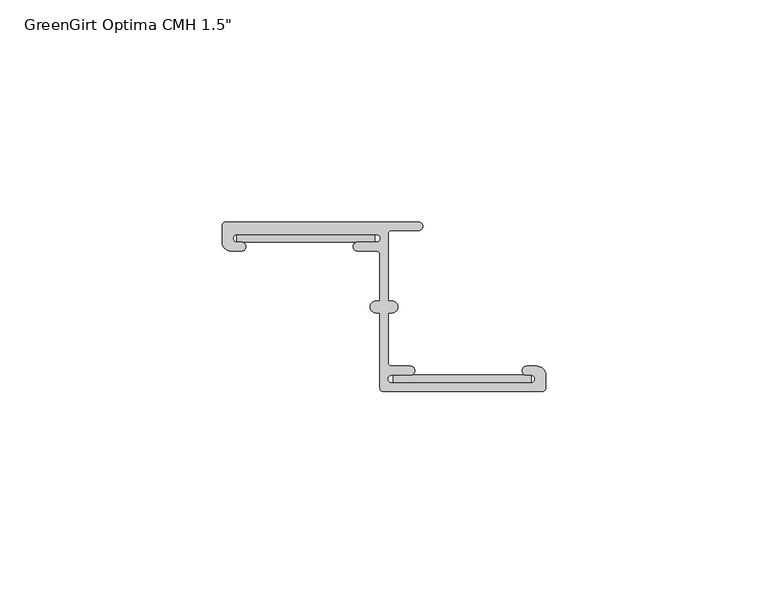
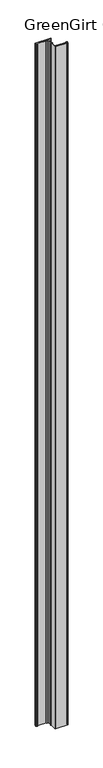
"""IFC4 building model written with IfcOpenShell, lengths in millimetres: fastener geometry."""

from ifc_helpers import new_model, si_unit, frame, origin, origin_with_axes, place, context, project, spatial, polyline, circle_curve, outline, extrude, source, transform, mapped, element, save
from ifc_brep_helpers import plane_surface, cylinder_surface, revolved_surface, advanced_brep


def fastener_4e99c733(model_context):
    return source(origin(), model_context, "Body", "SolidModel", [
        advanced_brep(
        [(54.102, -2.794, 2032.0), (85.471, -2.794, 2032.0), (85.471, -4.5212, 2032.0), (81.28, -4.5212, 2032.0), (81.28, -6.5532, 2032.0), (85.471, -6.5532, 2032.0), (86.233, -7.3152, 2032.0), (86.233, -17.7601563, 2032.0), (85.3845567, -17.7601563, 2032.0), (85.3845567, -20.4288947, 2032.0), (86.233, -20.4288947, 2032.0), (86.233, -37.3379766, 2032.0), (86.995, -38.0999766, 2032.0), (122.8513242, -38.1, 2032.0), (123.571, -37.3379766, 2032.0), (123.571, -34.4677766, 2032.0), (121.539, -32.4357766, 2032.0), (119.253, -32.4357766, 2032.0), (119.253, -34.4677766, 2032.0), (120.269, -34.4677766, 2032.0), (120.269, -36.1949766, 2032.0), (88.9, -36.1949766, 2032.0), (88.9, -34.4677766, 2032.0), (93.091, -34.4677766, 2032.0), (93.091, -32.4357766, 2032.0), (88.9, -32.4357766, 2032.0), (88.138, -31.6737766, 2032.0), (88.138, -20.4279799, 2032.0), (88.9869007, -20.4279799, 2032.0), (88.9869007, -17.7601563, 2032.0), (88.138, -17.7601563, 2032.0), (88.138, -2.667, 2032.0), (88.9, -1.905, 2032.0), (94.996, -1.905, 2032.0), (94.996, 0.0, 2032.0), (51.562, 0.0, 2032.0), (50.8, -0.762, 2032.0), (50.8, -4.5212, 2032.0), (52.832, -6.5532, 2032.0), (55.118, -6.5532, 2032.0), (55.118, -4.5212, 2032.0), (54.102, -4.5212, 2032.0), (54.102, -2.794, 0.0), (54.102, -4.5212, 0.0), (55.118, -4.5212, 0.0), (55.118, -6.5532, 0.0), (52.832, -6.5532, 0.0), (50.8, -4.5212, 0.0), (50.8, -0.762, 0.0), (51.562, 0.0, 0.0), (94.996, 0.0, 0.0), (94.996, -1.905, 0.0), (88.9, -1.905, 0.0), (88.138, -2.667, 0.0), (88.138, -17.7601563, 0.0), (88.9869007, -17.7601563, 0.0), (88.9869007, -20.4279799, 0.0), (88.138, -20.4279799, 0.0), (88.138, -31.6737766, 0.0), (88.9, -32.4357766, 0.0), (93.091, -32.4357766, 0.0), (93.091, -34.4677766, 0.0), (88.9, -34.4677766, 0.0), (88.9, -36.1949766, 0.0), (120.269, -36.1949766, 0.0), (120.269, -34.4677766, 0.0), (119.253, -34.4677766, 0.0), (119.253, -32.4357766, 0.0), (121.539, -32.4357766, 0.0), (123.571, -34.4677766, 0.0), (123.571, -37.3379766, 0.0), (122.809, -38.0999766, 0.0), (86.9676774, -38.1, 0.0), (86.233, -37.3379766, 0.0), (86.233, -20.4288947, 0.0), (85.3845567, -20.4288947, 0.0), (85.3845567, -17.7601563, 0.0), (86.233, -17.7601563, 0.0), (86.233, -7.3152, 0.0), (85.471, -6.5532, 0.0), (81.28, -6.5532, 0.0), (81.28, -4.5212, 0.0), (85.471, -4.5212, 0.0), (85.471, -2.794, 0.0)],
        [
            (0, 1),
            (1, 2, circle_curve(frame((85.471, -3.6576, 2032.0), z_axis=(0.0, 0.0, -1.0), x_axis=(1.0, 0.0, 0.0)), 0.8636)),
            (2, 3),
            (3, 4, circle_curve(frame((81.28, -5.5372, 2032.0), z_axis=(0.0, 0.0, 1.0), x_axis=(1.0, 0.0, 0.0)), 1.016)),
            (4, 5),
            (5, 6, circle_curve(frame((85.471, -7.3152, 2032.0), z_axis=(0.0, 0.0, -1.0), x_axis=(1.0, 0.0, 0.0)), 0.762)),
            (6, 7),
            (7, 8),
            (8, 9, circle_curve(frame((85.3845567, -19.0945255, 2032.0), z_axis=(0.0, 0.0, 1.0), x_axis=(1.0, 0.0, 0.0)), 1.3343692)),
            (9, 10),
            (10, 11),
            (11, 12, circle_curve(frame((86.995, -37.3379766, 2032.0), z_axis=(0.0, 0.0, 1.0), x_axis=(1.0, 0.0, 0.0)), 0.762)),
            (12, 13),
            (13, 14, circle_curve(frame((122.809, -37.3379766, 2032.0), z_axis=(0.0, 0.0, 1.0), x_axis=(1.0, 0.0, 0.0)), 0.762)),
            (14, 15),
            (15, 16, circle_curve(frame((121.539, -34.4677766, 2032.0), z_axis=(0.0, 0.0, 1.0), x_axis=(1.0, 0.0, 0.0)), 2.032)),
            (16, 17),
            (17, 18, circle_curve(frame((119.253, -33.4517766, 2032.0), z_axis=(0.0, 0.0, 1.0), x_axis=(1.0, 0.0, 0.0)), 1.016)),
            (18, 19),
            (19, 20, circle_curve(frame((120.269, -35.3313766, 2032.0), z_axis=(0.0, 0.0, -1.0), x_axis=(1.0, 0.0, 0.0)), 0.8636)),
            (20, 21),
            (21, 22, circle_curve(frame((88.9, -35.3313766, 2032.0), z_axis=(0.0, 0.0, -1.0), x_axis=(1.0, 0.0, 0.0)), 0.8636)),
            (22, 23),
            (23, 24, circle_curve(frame((93.091, -33.4517766, 2032.0), z_axis=(0.0, 0.0, 1.0), x_axis=(1.0, 0.0, 0.0)), 1.016)),
            (24, 25),
            (25, 26, circle_curve(frame((88.9, -31.6737766, 2032.0), z_axis=(0.0, 0.0, -1.0), x_axis=(1.0, 0.0, 0.0)), 0.762)),
            (26, 27),
            (27, 28),
            (28, 29, circle_curve(frame((88.9869007, -19.0940681, 2032.0), z_axis=(0.0, 0.0, 1.0), x_axis=(1.0, 0.0, 0.0)), 1.3339118)),
            (29, 30),
            (30, 31),
            (31, 32, circle_curve(frame((88.9, -2.667, 2032.0), z_axis=(0.0, 0.0, -1.0), x_axis=(1.0, 0.0, 0.0)), 0.762)),
            (32, 33),
            (33, 34, circle_curve(frame((94.996, -0.9525, 2032.0), z_axis=(0.0, 0.0, 1.0), x_axis=(1.0, 0.0, 0.0)), 0.9525)),
            (34, 35),
            (35, 36, circle_curve(frame((51.562, -0.762, 2032.0), z_axis=(0.0, 0.0, 1.0), x_axis=(1.0, 0.0, 0.0)), 0.762)),
            (36, 37),
            (37, 38, circle_curve(frame((52.832, -4.5212, 2032.0), z_axis=(0.0, 0.0, 1.0), x_axis=(1.0, 0.0, 0.0)), 2.032)),
            (38, 39),
            (39, 40, circle_curve(frame((55.118, -5.5372, 2032.0), z_axis=(0.0, 0.0, 1.0), x_axis=(1.0, 0.0, 0.0)), 1.016)),
            (40, 41),
            (41, 0, circle_curve(frame((54.102, -3.6576, 2032.0), z_axis=(0.0, 0.0, -1.0), x_axis=(1.0, 0.0, 0.0)), 0.8636)),
            (42, 43, circle_curve(frame((54.102, -3.6576, 0.0), z_axis=(0.0, 0.0, 1.0), x_axis=(1.0, 0.0, 0.0)), 0.8636)),
            (43, 44),
            (44, 45, circle_curve(frame((55.118, -5.5372, 0.0), z_axis=(0.0, 0.0, -1.0), x_axis=(1.0, 0.0, 0.0)), 1.016)),
            (45, 46),
            (46, 47, circle_curve(frame((52.832, -4.5212, 0.0), z_axis=(0.0, 0.0, -1.0), x_axis=(1.0, 0.0, 0.0)), 2.032)),
            (47, 48),
            (48, 49, circle_curve(frame((51.562, -0.762, 0.0), z_axis=(0.0, 0.0, -1.0), x_axis=(1.0, 0.0, 0.0)), 0.762)),
            (49, 50),
            (50, 51, circle_curve(frame((94.996, -0.9525, 0.0), z_axis=(0.0, 0.0, -1.0), x_axis=(1.0, 0.0, 0.0)), 0.9525)),
            (51, 52),
            (52, 53, circle_curve(frame((88.9, -2.667, 0.0), z_axis=(0.0, 0.0, 1.0), x_axis=(1.0, 0.0, 0.0)), 0.762)),
            (53, 54),
            (54, 55),
            (55, 56, circle_curve(frame((88.9869007, -19.0940681, 0.0), z_axis=(0.0, 0.0, -1.0), x_axis=(1.0, 0.0, 0.0)), 1.3339118)),
            (56, 57),
            (57, 58),
            (58, 59, circle_curve(frame((88.9, -31.6737766, 0.0), z_axis=(0.0, 0.0, 1.0), x_axis=(1.0, 0.0, 0.0)), 0.762)),
            (59, 60),
            (60, 61, circle_curve(frame((93.091, -33.4517766, 0.0), z_axis=(0.0, 0.0, -1.0), x_axis=(1.0, 0.0, 0.0)), 1.016)),
            (61, 62),
            (62, 63, circle_curve(frame((88.9, -35.3313766, 0.0), z_axis=(0.0, 0.0, 1.0), x_axis=(1.0, 0.0, 0.0)), 0.8636)),
            (63, 64),
            (64, 65, circle_curve(frame((120.269, -35.3313766, 0.0), z_axis=(0.0, 0.0, 1.0), x_axis=(1.0, 0.0, 0.0)), 0.8636)),
            (65, 66),
            (66, 67, circle_curve(frame((119.253, -33.4517766, 0.0), z_axis=(0.0, 0.0, -1.0), x_axis=(1.0, 0.0, 0.0)), 1.016)),
            (67, 68),
            (68, 69, circle_curve(frame((121.539, -34.4677766, 0.0), z_axis=(0.0, 0.0, -1.0), x_axis=(1.0, 0.0, 0.0)), 2.032)),
            (69, 70),
            (70, 71, circle_curve(frame((122.809, -37.3379766, 0.0), z_axis=(0.0, 0.0, -1.0), x_axis=(1.0, 0.0, 0.0)), 0.762)),
            (71, 72),
            (72, 73, circle_curve(frame((86.995, -37.3379766, 0.0), z_axis=(0.0, 0.0, -1.0), x_axis=(1.0, 0.0, 0.0)), 0.762)),
            (73, 74),
            (74, 75),
            (75, 76, circle_curve(frame((85.3845567, -19.0945255, 0.0), z_axis=(0.0, 0.0, -1.0), x_axis=(1.0, 0.0, 0.0)), 1.3343692)),
            (76, 77),
            (77, 78),
            (78, 79, circle_curve(frame((85.471, -7.3152, 0.0), z_axis=(0.0, 0.0, 1.0), x_axis=(1.0, 0.0, 0.0)), 0.762)),
            (79, 80),
            (80, 81, circle_curve(frame((81.28, -5.5372, 0.0), z_axis=(0.0, 0.0, -1.0), x_axis=(1.0, 0.0, 0.0)), 1.016)),
            (81, 82),
            (82, 83, circle_curve(frame((85.471, -3.6576, 0.0), z_axis=(0.0, 0.0, 1.0), x_axis=(1.0, 0.0, 0.0)), 0.8636)),
            (83, 42),
            (0, 42),
            (83, 1),
            (82, 2),
            (81, 3),
            (80, 4),
            (79, 5),
            (78, 6),
            (77, 7),
            (76, 8),
            (75, 9),
            (74, 10),
            (73, 11),
            (72, 12),
            (71, 13),
            (70, 14),
            (69, 15),
            (68, 16),
            (67, 17),
            (66, 18),
            (65, 19),
            (64, 20),
            (63, 21),
            (62, 22),
            (61, 23),
            (60, 24),
            (59, 25),
            (58, 26),
            (57, 27),
            (56, 28),
            (55, 29),
            (54, 30),
            (53, 31),
            (52, 32),
            (51, 33),
            (50, 34),
            (49, 35),
            (48, 36),
            (47, 37),
            (46, 38),
            (45, 39),
            (44, 40),
            (43, 41),
        ],
        [
            plane_surface(frame((85.471, -2.794, 2032.0), z_axis=(0.0, 0.0, 1.0), x_axis=(1.0, 0.0, 0.0))),
            plane_surface(frame((85.471, -2.794, 0.0), z_axis=(0.0, 0.0, -1.0), x_axis=(-1.0, 0.0, 0.0))),
            plane_surface(frame((54.102, -2.794, 2032.0), z_axis=(0.0, -1.0, 0.0), x_axis=(0.0, 0.0, -1.0))),
            revolved_surface(polyline([(86.33460000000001, -3.6576, 0.0), (86.33460000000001, -3.6576, 2032.0)]), (85.471, -3.6576, 0.0), (0.0, 0.0, -1.0)),
            plane_surface(frame((85.471, -4.5212, 2032.0), z_axis=(0.0, 1.0, 0.0), x_axis=(0.0, 0.0, -1.0))),
            cylinder_surface(frame((81.28, -5.5372, 0.0), z_axis=(0.0, 0.0, 1.0), x_axis=(1.0, 0.0, 0.0)), 1.016),
            plane_surface(frame((81.28, -6.5532, 2032.0), z_axis=(0.0, -1.0, 0.0), x_axis=(0.0, 0.0, -1.0))),
            revolved_surface(polyline([(86.233, -7.3152, 0.0), (86.233, -7.3152, 2032.0)]), (85.471, -7.3152, 0.0), (0.0, 0.0, -1.0)),
            plane_surface(frame((86.233, -7.3152, 2032.0), z_axis=(-1.0, 0.0, 0.0), x_axis=(0.0, 0.0, -1.0))),
            plane_surface(frame((86.233, -17.7601563, 2032.0), z_axis=(0.0, 1.0, 0.0), x_axis=(0.0, 0.0, -1.0))),
            cylinder_surface(frame((85.3845567, -19.0945255, 0.0), z_axis=(0.0, 0.0, 1.0), x_axis=(1.0, 0.0, 0.0)), 1.3343692),
            plane_surface(frame((85.3845567, -20.4288947, 2032.0), z_axis=(0.0, -1.0, 0.0), x_axis=(0.0, 0.0, -1.0))),
            plane_surface(frame((86.233, -20.4288947, 2032.0), z_axis=(-1.0, 0.0, 0.0), x_axis=(0.0, 0.0, -1.0))),
            cylinder_surface(frame((86.995, -37.3379766, 0.0), z_axis=(0.0, 0.0, 1.0), x_axis=(1.0, 0.0, 0.0)), 0.762),
            plane_surface(frame((86.9676774, -38.1, 2032.0), z_axis=(0.0, -1.0, 0.0), x_axis=(0.0, 0.0, -1.0))),
            cylinder_surface(frame((122.809, -37.3379766, 0.0), z_axis=(0.0, 0.0, 1.0), x_axis=(1.0, 0.0, 0.0)), 0.762),
            plane_surface(frame((123.571, -37.3379766, 2032.0), z_axis=(1.0, 1.3794275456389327e-12, 0.0), x_axis=(0.0, 0.0, -1.0))),
            cylinder_surface(frame((121.539, -34.4677766, 0.0), z_axis=(0.0, 0.0, 1.0), x_axis=(1.0, 0.0, 0.0)), 2.032),
            plane_surface(frame((121.539, -32.4357766, 2032.0), z_axis=(0.0, 1.0, 0.0), x_axis=(0.0, 0.0, -1.0))),
            cylinder_surface(frame((119.253, -33.4517766, 0.0), z_axis=(0.0, 0.0, 1.0), x_axis=(1.0, 0.0, 0.0)), 1.016),
            plane_surface(frame((119.253, -34.4677766, 2032.0), z_axis=(0.0, -1.0, 0.0), x_axis=(0.0, 0.0, -1.0))),
            revolved_surface(polyline([(121.13260000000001, -35.3313766, 0.0), (121.13260000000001, -35.3313766, 2032.0)]), (120.269, -35.3313766, 0.0), (0.0, 0.0, -1.0)),
            plane_surface(frame((120.269, -36.1949766, 2032.0), z_axis=(0.0, 1.0, 0.0), x_axis=(0.0, 0.0, -1.0))),
            revolved_surface(polyline([(89.76360000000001, -35.3313766, 0.0), (89.76360000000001, -35.3313766, 2032.0)]), (88.9, -35.3313766, 0.0), (0.0, 0.0, -1.0)),
            plane_surface(frame((88.9, -34.4677766, 2032.0), z_axis=(0.0, -1.0, 0.0), x_axis=(0.0, 0.0, -1.0))),
            cylinder_surface(frame((93.091, -33.4517766, 0.0), z_axis=(0.0, 0.0, 1.0), x_axis=(1.0, 0.0, 0.0)), 1.016),
            plane_surface(frame((93.091, -32.4357766, 2032.0), z_axis=(0.0, 1.0, 0.0), x_axis=(0.0, 0.0, -1.0))),
            revolved_surface(polyline([(89.662, -31.6737766, 0.0), (89.662, -31.6737766, 2032.0)]), (88.9, -31.6737766, 0.0), (0.0, 0.0, -1.0)),
            plane_surface(frame((88.138, -31.6737766, 2032.0), z_axis=(1.0, 0.0, 0.0), x_axis=(0.0, 0.0, -1.0))),
            plane_surface(frame((88.138, -20.4279799, 2032.0), z_axis=(0.0, -1.0, 0.0), x_axis=(0.0, 0.0, -1.0))),
            cylinder_surface(frame((88.9869007, -19.0940681, 0.0), z_axis=(0.0, 0.0, 1.0), x_axis=(1.0, 0.0, 0.0)), 1.3339118),
            plane_surface(frame((88.9869007, -17.7601563, 2032.0), z_axis=(0.0, 1.0, 0.0), x_axis=(0.0, 0.0, -1.0))),
            plane_surface(frame((88.138, -17.7601563, 2032.0), z_axis=(1.0, 0.0, 0.0), x_axis=(0.0, 0.0, -1.0))),
            revolved_surface(polyline([(89.662, -2.667, 0.0), (89.662, -2.667, 2032.0)]), (88.9, -2.667, 0.0), (0.0, 0.0, -1.0)),
            plane_surface(frame((88.9, -1.905, 2032.0), z_axis=(0.0, -1.0, 0.0), x_axis=(0.0, 0.0, -1.0))),
            cylinder_surface(frame((94.996, -0.9525, 0.0), z_axis=(0.0, 0.0, 1.0), x_axis=(1.0, 0.0, 0.0)), 0.9525),
            plane_surface(frame((94.996, 0.0, 2032.0), z_axis=(0.0, 1.0, 0.0), x_axis=(0.0, 0.0, -1.0))),
            cylinder_surface(frame((51.562, -0.762, 0.0), z_axis=(0.0, 0.0, 1.0), x_axis=(1.0, 0.0, 0.0)), 0.762),
            plane_surface(frame((50.8, -0.762, 2032.0), z_axis=(-1.0, 2.681638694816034e-11, 0.0), x_axis=(0.0, 0.0, -1.0))),
            cylinder_surface(frame((52.832, -4.5212, 0.0), z_axis=(0.0, 0.0, 1.0), x_axis=(1.0, 0.0, 0.0)), 2.032),
            plane_surface(frame((52.832, -6.5532, 2032.0), z_axis=(0.0, -1.0, 0.0), x_axis=(0.0, 0.0, -1.0))),
            cylinder_surface(frame((55.118, -5.5372, 0.0), z_axis=(0.0, 0.0, 1.0), x_axis=(1.0, 0.0, 0.0)), 1.016),
            plane_surface(frame((55.118, -4.5212, 2032.0), z_axis=(0.0, 1.0, 0.0), x_axis=(0.0, 0.0, -1.0))),
            revolved_surface(polyline([(54.965599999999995, -3.6576, 0.0), (54.965599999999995, -3.6576, 2032.0)]), (54.102, -3.6576, 0.0), (0.0, 0.0, -1.0)),
        ],
        [
            (0, [[1, 2, 3, 4, 5, 6, 7, 8, 9, 10, 11, 12, 13, 14, 15, 16, 17, 18, 19, 20, 21, 22, 23, 24, 25, 26, 27, 28, 29, 30, 31, 32, 33, 34, 35, 36, 37, 38, 39, 40, 41, 42]]),
            (1, [[43, 44, 45, 46, 47, 48, 49, 50, 51, 52, 53, 54, 55, 56, 57, 58, 59, 60, 61, 62, 63, 64, 65, 66, 67, 68, 69, 70, 71, 72, 73, 74, 75, 76, 77, 78, 79, 80, 81, 82, 83, 84]]),
            (2, [[-1, 85, -84, 86]]),
            (3, [[-2, -86, -83, 87]]),
            (4, [[-3, -87, -82, 88]]),
            (5, [[-4, -88, -81, 89]]),
            (6, [[-5, -89, -80, 90]]),
            (7, [[-6, -90, -79, 91]]),
            (8, [[-7, -91, -78, 92]]),
            (9, [[-8, -92, -77, 93]]),
            (10, [[-9, -93, -76, 94]]),
            (11, [[-10, -94, -75, 95]]),
            (12, [[-11, -95, -74, 96]]),
            (13, [[-12, -96, -73, 97]]),
            (14, [[-13, -97, -72, 98]]),
            (15, [[-14, -98, -71, 99]]),
            (16, [[-15, -99, -70, 100]]),
            (17, [[-16, -100, -69, 101]]),
            (18, [[-17, -101, -68, 102]]),
            (19, [[-18, -102, -67, 103]]),
            (20, [[-19, -103, -66, 104]]),
            (21, [[-20, -104, -65, 105]]),
            (22, [[-21, -105, -64, 106]]),
            (23, [[-22, -106, -63, 107]]),
            (24, [[-23, -107, -62, 108]]),
            (25, [[-24, -108, -61, 109]]),
            (26, [[-25, -109, -60, 110]]),
            (27, [[-26, -110, -59, 111]]),
            (28, [[-27, -111, -58, 112]]),
            (29, [[-28, -112, -57, 113]]),
            (30, [[-29, -113, -56, 114]]),
            (31, [[-30, -114, -55, 115]]),
            (32, [[-31, -115, -54, 116]]),
            (33, [[-32, -116, -53, 117]]),
            (34, [[-33, -117, -52, 118]]),
            (35, [[-34, -118, -51, 119]]),
            (36, [[-35, -119, -50, 120]]),
            (37, [[-36, -120, -49, 121]]),
            (38, [[-37, -121, -48, 122]]),
            (39, [[-38, -122, -47, 123]]),
            (40, [[-39, -123, -46, 124]]),
            (41, [[-40, -124, -45, 125]]),
            (42, [[-41, -125, -44, 126]]),
            (43, [[-42, -126, -43, -85]]),
        ],
    ),
        extrude(outline(polyline([(85.09, -2.794), (85.09, -4.5212), (54.102, -4.5212), (54.102, -2.794), (85.09, -2.794)])), origin_with_axes(), (0.0, 0.0, 1.0), 2032.0),
        extrude(outline(polyline([(120.269, -34.4677766), (120.269, -36.1949766), (89.281, -36.1949766), (89.281, -34.4677766), (120.269, -34.4677766)])), origin_with_axes(), (0.0, 0.0, 1.0), 2032.0),
    ])


if __name__ == "__main__":
    model = new_model("IFC4")
    model_context = context("Model", 3, world=origin())
    ifc_project = project(units=[si_unit("LENGTHUNIT", "METRE", prefix="MILLI")], contexts=[model_context])
    site = spatial("IfcSite", under=ifc_project)
    building = spatial("IfcBuilding", under=site)
    placement = place(None, origin())
    fastener_shape = fastener_4e99c733(model_context)
    element("IfcFastener", 1, ObjectType="Structural-Supporting-Components_Advanced-Architectural-Products_GreenGirt-Optima-CMH-System : GreenGirt Optima CMH 1.5\"", at=placement, inside=building, context=model_context, shape_type="MappedRepresentation", body=[
        mapped(fastener_shape, transform((0.0, 0.0, 0.0), x_axis=(1.0, 0.0, 0.0), y_axis=(0.0, 1.0, 0.0), z_axis=(0.0, 0.0, 1.0))),
    ])
    save(model, "model.ifc")
